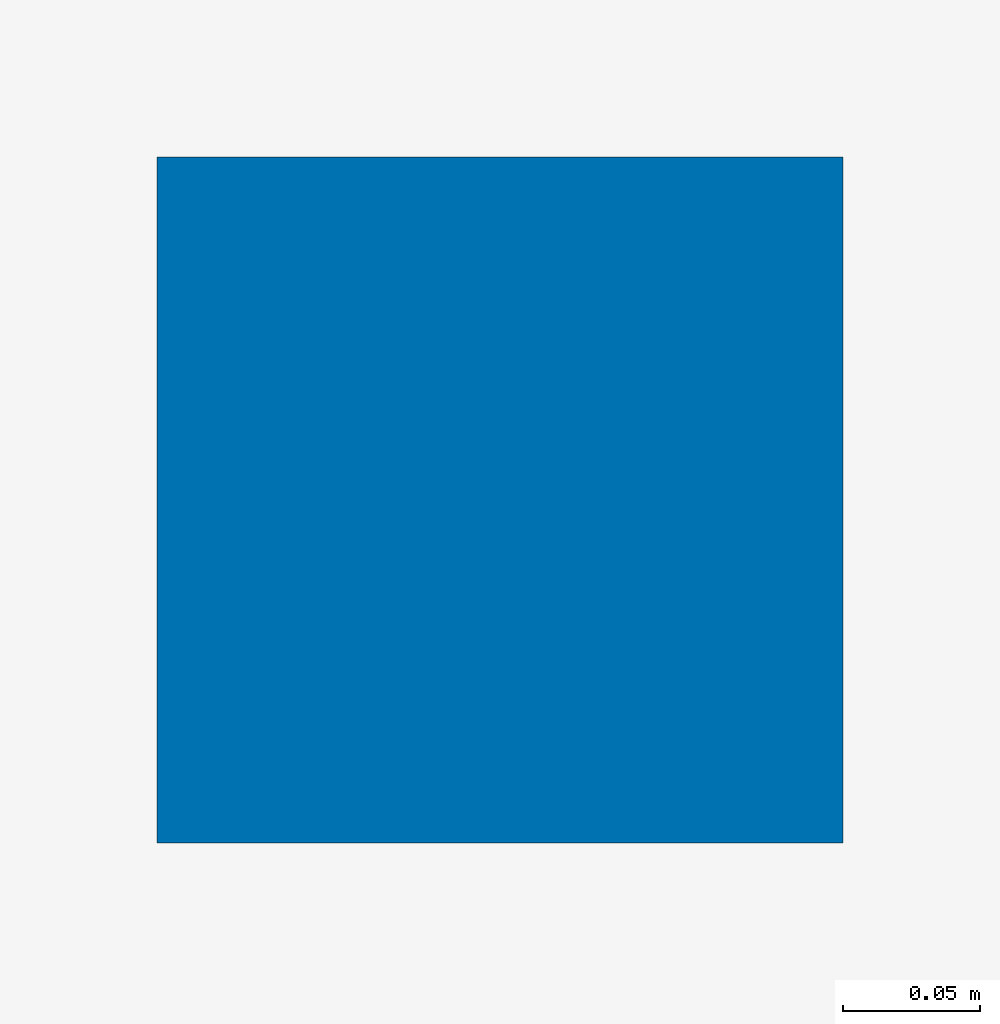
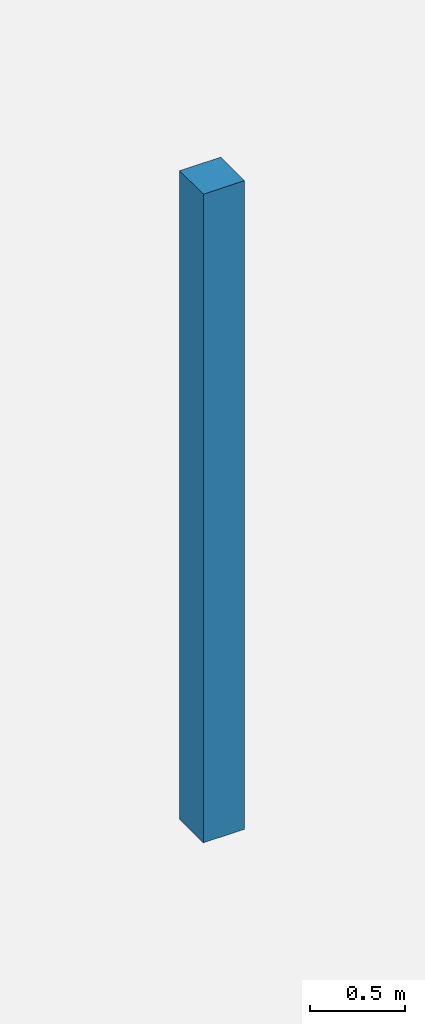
# One storey, part 10 of 302: 1 column.
"""IFC2X3 building model written with IfcOpenShell, lengths in metres."""

from ifc_helpers import new_model, entity, si_unit, converted_unit, derived_unit, direction, frame, origin, origin_2d_with_axis, place, context, subcontext, project, spatial, rectangle, extrude, source, transform, mapped, material, type_object, type_shapes, element, save


model = new_model("IFC2X3")

# Units and contexts
model_context = context("Model", 3, precision=1e-05, world=origin(), true_north=direction((6.12303176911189e-17, 1.0)))
body_context = subcontext(model_context, "Body", "Model", "MODEL_VIEW")
ifc_project = project(units=[si_unit("LENGTHUNIT", "METRE"), si_unit("AREAUNIT", "SQUARE_METRE"), si_unit("VOLUMEUNIT", "CUBIC_METRE"), converted_unit("PLANEANGLEUNIT", "DEGREE", entity("IfcRatioMeasure", 0.0174532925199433), si_unit("PLANEANGLEUNIT", "RADIAN"), dimensions=[0, 0, 0, 0, 0, 0, 0]), si_unit("MASSUNIT", "GRAM", prefix="KILO"), derived_unit("MASSDENSITYUNIT", [(si_unit("MASSUNIT", "GRAM", prefix="KILO"), 1), (si_unit("LENGTHUNIT", "METRE"), -3)]), derived_unit("MOMENTOFINERTIAUNIT", [(si_unit("LENGTHUNIT", "METRE"), 4)]), si_unit("TIMEUNIT", "SECOND"), si_unit("FREQUENCYUNIT", "HERTZ"), si_unit("THERMODYNAMICTEMPERATUREUNIT", "DEGREE_CELSIUS"), derived_unit("THERMALTRANSMITTANCEUNIT", [(si_unit("MASSUNIT", "GRAM", prefix="KILO"), 1), (si_unit("THERMODYNAMICTEMPERATUREUNIT", "KELVIN"), -1), (si_unit("TIMEUNIT", "SECOND"), -3)]), derived_unit("VOLUMETRICFLOWRATEUNIT", [(si_unit("LENGTHUNIT", "METRE"), 3), (si_unit("TIMEUNIT", "SECOND"), -1)]), si_unit("ELECTRICCURRENTUNIT", "AMPERE"), si_unit("ELECTRICVOLTAGEUNIT", "VOLT"), si_unit("POWERUNIT", "WATT"), si_unit("FORCEUNIT", "NEWTON", prefix="KILO"), si_unit("ILLUMINANCEUNIT", "LUX"), si_unit("LUMINOUSFLUXUNIT", "LUMEN"), si_unit("LUMINOUSINTENSITYUNIT", "CANDELA"), derived_unit("USERDEFINED", [(si_unit("MASSUNIT", "GRAM", prefix="KILO"), -1), (si_unit("LENGTHUNIT", "METRE"), -2), (si_unit("TIMEUNIT", "SECOND"), 3), (si_unit("LUMINOUSFLUXUNIT", "LUMEN"), 1)]), derived_unit("LINEARVELOCITYUNIT", [(si_unit("LENGTHUNIT", "METRE"), 1), (si_unit("TIMEUNIT", "SECOND"), -1)]), si_unit("PRESSUREUNIT", "PASCAL"), derived_unit("USERDEFINED", [(si_unit("LENGTHUNIT", "METRE"), -2), (si_unit("MASSUNIT", "GRAM", prefix="KILO"), 1), (si_unit("TIMEUNIT", "SECOND"), -2)]), derived_unit("LINEARFORCEUNIT", [(si_unit("MASSUNIT", "GRAM", prefix="KILO"), 1), (si_unit("LENGTHUNIT", "METRE"), 1), (si_unit("TIMEUNIT", "SECOND"), -2), (si_unit("LENGTHUNIT", "METRE"), -1)]), derived_unit("PLANARFORCEUNIT", [(si_unit("MASSUNIT", "GRAM", prefix="KILO"), 1), (si_unit("LENGTHUNIT", "METRE"), 1), (si_unit("TIMEUNIT", "SECOND"), -2), (si_unit("LENGTHUNIT", "METRE"), -2)])], contexts=[model_context])

# Site, building, storey
site_placement = place(None, origin())
site = spatial("IfcSite", under=ifc_project, at=site_placement, Name="Default", CompositionType="ELEMENT")
building_placement = place(site_placement, origin())
building = spatial("IfcBuilding", under=site, at=building_placement, CompositionType="ELEMENT")
storey_placement = place(building_placement, frame((0.0, 0.0, -1.3)))
storey = spatial("IfcBuildingStorey", under=building, at=storey_placement, Name="00_EG", CompositionType="ELEMENT", Elevation=-1.3)

# Column
ifc_material = material(Name="Ortbeton -Stütze")
column_type = type_object("IfcColumnType", Name="STB Stütze - rechteckig:Stütze 250 x 250", PredefinedType="COLUMN", material=ifc_material)
shared_shape = source(origin(), body_context, "Body", "SweptSolid", [
    extrude(rectangle(XDim=0.25, YDim=0.25, at=origin_2d_with_axis()), frame((0.0, 0.0, -0.0300000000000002), z_axis=(0.0, 0.0, 1.0), x_axis=(0.0, -1.0, 0.0)), (0.0, 0.0, 1.0), 4.18),
])
type_shapes(column_type, [shared_shape])
column_placement = place(storey_placement, frame((-183.570111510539, 19.1622628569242, 1.3)))
element("IfcColumn", 1, at=column_placement, inside=storey, type_object=column_type, material=ifc_material, Name="STB Stütze - rechteckig:Stütze 250 x 250", ObjectType="STB Stütze - rechteckig:Stütze 250 x 250", context=body_context, shape_type="MappedRepresentation", body=[
    mapped(shared_shape, transform((0.0, 0.0, 0.0), scale=1.0)),
])

save(model, "model.ifc")
